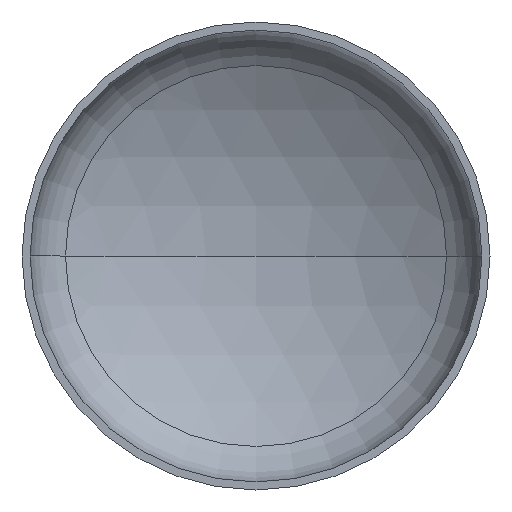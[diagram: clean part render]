
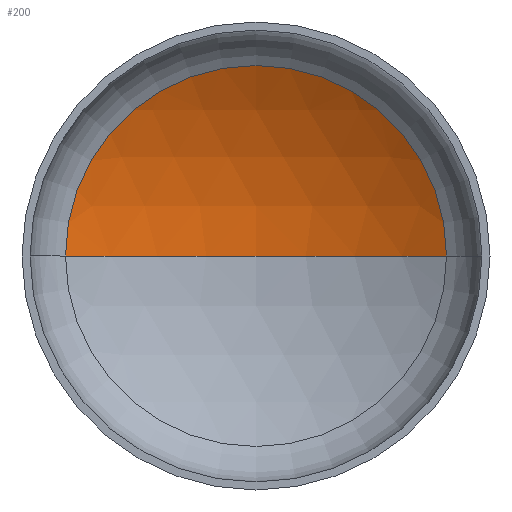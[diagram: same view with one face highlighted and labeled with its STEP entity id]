
A CAD part, front view. The second image highlights one B-rep face of the part: STEP entity #200.
In plain terms, the highlighted spherical face has radius 2880 mm.
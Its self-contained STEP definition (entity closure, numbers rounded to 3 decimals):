
#3 = AXIS2_PLACEMENT_3D ( 'NONE', #78, #103, #108 ) ;
#6 = AXIS2_PLACEMENT_3D ( 'NONE', #154, #297, #203 ) ;
#10 = EDGE_LOOP ( 'NONE', ( #252, #100, #175 ) ) ;
#18 = AXIS2_PLACEMENT_3D ( 'NONE', #132, #160, #357 ) ;
#20 = DIRECTION ( 'NONE',  ( 0., 0., -1. ) ) ;
#28 = AXIS2_PLACEMENT_3D ( 'NONE', #395, #20, #271 ) ;
#78 = CARTESIAN_POINT ( 'NONE',  ( 0., -1881.533, 0. ) ) ;
#93 = FACE_OUTER_BOUND ( 'NONE', #10, .T. ) ;
#100 = ORIENTED_EDGE ( 'NONE', *, *, #359, .T. ) ;
#103 = DIRECTION ( 'NONE',  ( 0., 0., -1. ) ) ;
#108 = DIRECTION ( 'NONE',  ( -1., 0., 0. ) ) ;
#111 = VERTEX_POINT ( 'NONE', #189 ) ;
#132 = CARTESIAN_POINT ( 'NONE',  ( 0., -1881.533, 0. ) ) ;
#149 = CARTESIAN_POINT ( 'NONE',  ( 1465.394, 597.785, 0. ) ) ;
#154 = CARTESIAN_POINT ( 'NONE',  ( 0., 597.785, 0. ) ) ;
#160 = DIRECTION ( 'NONE',  ( 0., 0., 1. ) ) ;
#175 = ORIENTED_EDGE ( 'NONE', *, *, #353, .T. ) ;
#179 = CARTESIAN_POINT ( 'NONE',  ( -1465.394, 597.785, 0. ) ) ;
#182 = SPHERICAL_SURFACE ( 'NONE', #28, 2880. ) ;
#189 = CARTESIAN_POINT ( 'NONE',  ( 0., 998.467, 0. ) ) ;
#200 = ADVANCED_FACE ( 'NONE', ( #93 ), #182, .F. ) ;
#203 = DIRECTION ( 'NONE',  ( 1., 0., 0. ) ) ;
#219 = VERTEX_POINT ( 'NONE', #149 ) ;
#236 = VERTEX_POINT ( 'NONE', #179 ) ;
#252 = ORIENTED_EDGE ( 'NONE', *, *, #335, .F. ) ;
#271 = DIRECTION ( 'NONE',  ( -1., 0., 0. ) ) ;
#288 = CIRCLE ( 'NONE', #6, 1465.394 ) ;
#297 = DIRECTION ( 'NONE',  ( 0., -1., 0. ) ) ;
#335 = EDGE_CURVE ( 'NONE', #111, #236, #370, .T. ) ;
#353 = EDGE_CURVE ( 'NONE', #219, #236, #288, .T. ) ;
#354 = CIRCLE ( 'NONE', #3, 2880. ) ;
#357 = DIRECTION ( 'NONE',  ( 1., 0., 0. ) ) ;
#359 = EDGE_CURVE ( 'NONE', #111, #219, #354, .T. ) ;
#370 = CIRCLE ( 'NONE', #18, 2880. ) ;
#395 = CARTESIAN_POINT ( 'NONE',  ( 0., -1881.533, 0. ) ) ;
